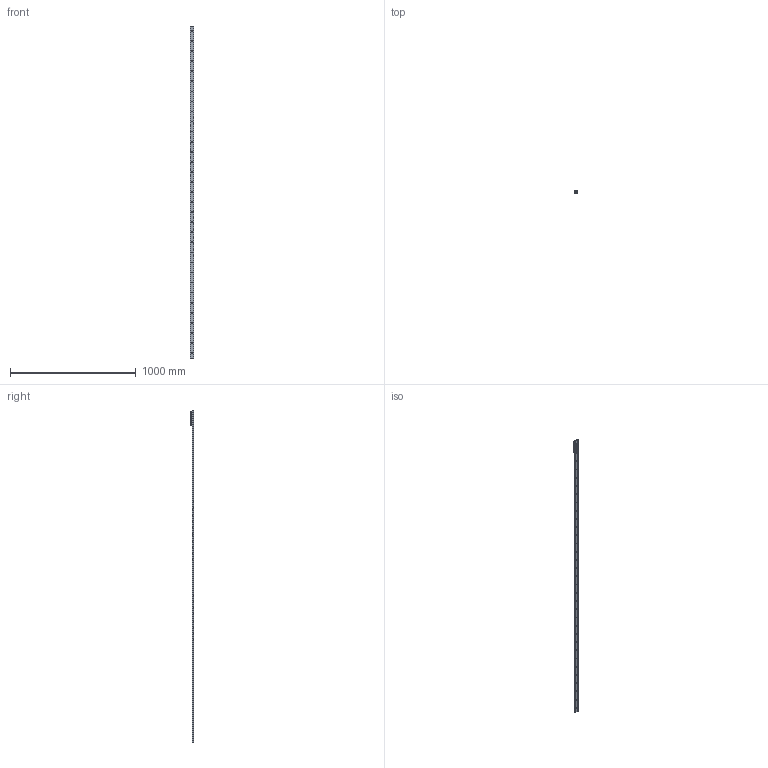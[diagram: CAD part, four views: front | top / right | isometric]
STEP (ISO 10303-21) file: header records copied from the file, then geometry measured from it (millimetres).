
FILE_DESCRIPTION( ( 'STEP AP214' ), '1' );
FILE_NAME( 'p:/temp/worker_22/temp/exporttempdir_796_300_sKxyR/format_2/TGV-02640_1_RV28G-3.stp', '2020-11-20T16:42:15', ( 'License CC BY-ND 4.0' ), ( 'CADENAS' ), ' ', 'PARTsolutions', ' ' );
FILE_SCHEMA( ( 'AUTOMOTIVE_DESIGN { 1 0 10303 214 1 1 1 1 }' ) );
Length unit declared in the file: millimetre
Products named in the file (6): TGV-02640/1/RV28G-3; _TGV28-2640-(3-1); _RV28G-3-slider; _RGNV28R; _RGAV28R; _WR28G-01
Assembly tree (7 placements, depth 2):
  TGV-02640/1/RV28G-3
    _TGV28-2640-(3-1)
    _RV28G-3-slider
    _RGNV28R  x2
    _RGAV28R
    _WR28G-01  x2
Bounding box: 28 x 24 x 2640 mm (x, y, z)
Volume: 417652.6 mm3; surface area: 268323.8 mm2
Topology: 7 solids, 7 shells, 1078 faces, 2810 edges, 1828 vertices
Faces by surface type: plane 657, cylinder 313, cone 73, bspline 26, torus 9
Full cylindrical faces by diameter (mm): 1.27 x4, 2 x2, 2.5 x6, 4 x4, 4.134 x4, 4.2 x3, 5 x3, 5.5 x3, 5.75 x33, 7 x5, 7.5 x1, 8 x6, 10.8 x3, 17 x3, 20.75 x6
Entity records: 26361 total; most frequent: CARTESIAN_POINT 4139, DIRECTION 3530, ORIENTED_EDGE 3192, EDGE_CURVE 1596, AXIS2_PLACEMENT_3D 1370, VERTEX_POINT 1128, EDGE_LOOP 989, LINE 790
